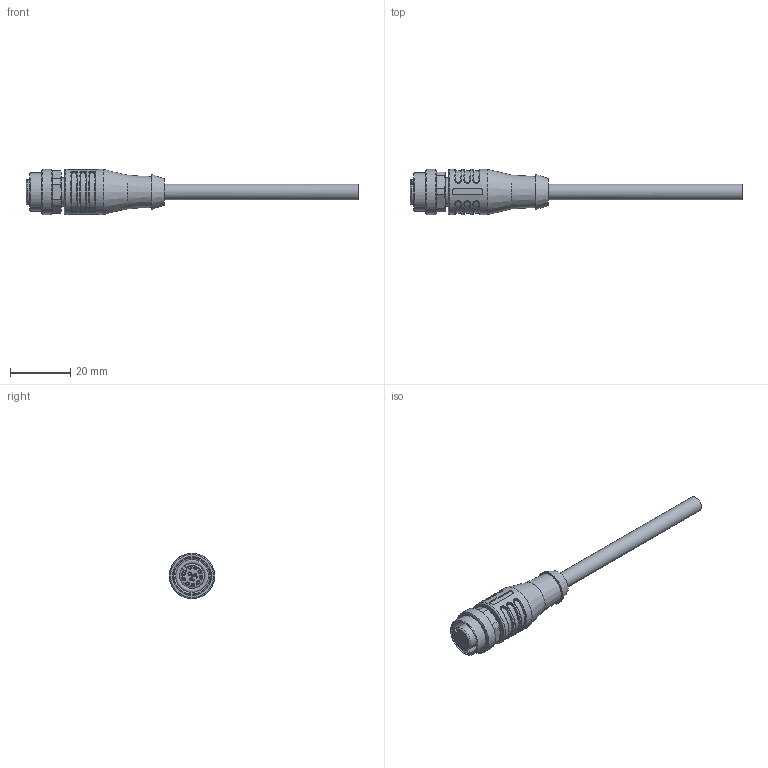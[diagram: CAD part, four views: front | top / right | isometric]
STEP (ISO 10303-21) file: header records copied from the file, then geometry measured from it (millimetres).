
FILE_DESCRIPTION(/* description */ (''),/* implementation_level */ '2;1');
FILE_NAME(/* name */ 'C:\#Vault-WorkDir\Konstruktions-Dokumente\Projekte\Zubehör allgemein\153-13643_C L12_3FG-S-xM-PUR.stp',/* time_stamp */ '2019-11-06T11:58:49+01:00',/* author */ ('SensoPart'),/* organization */ ('SensoPart'),/* preprocessor_version */ 'ST-DEVELOPER v17',/* originating_system */ 'Autodesk Inventor 2018',/* authorisation */ '');
FILE_SCHEMA (('AUTOMOTIVE_DESIGN { 1 0 10303 214 3 1 1 }'));
Length unit declared in the file: millimetre
Products named in the file (1): GH-ENG-0030287
Bounding box: 109.9 x 15 x 15 mm (x, y, z)
Volume: 7046.1 mm3; surface area: 4010.5 mm2
Topology: 1 solids, 1 shells, 386 faces, 979 edges, 640 vertices
Faces by surface type: bspline 140, plane 139, cylinder 54, torus 28, cone 25
Full cylindrical faces by diameter (mm): 0.7 x12, 5.2 x1, 9.3 x1, 10.95 x1, 12.3 x1, 12.8 x1, 15 x2
Entity records: 15124 total; most frequent: CARTESIAN_POINT 6408, ORIENTED_EDGE 1958, DIRECTION 1543, EDGE_CURVE 979, VERTEX_POINT 640, AXIS2_PLACEMENT_3D 557, EDGE_LOOP 433, LINE 429
